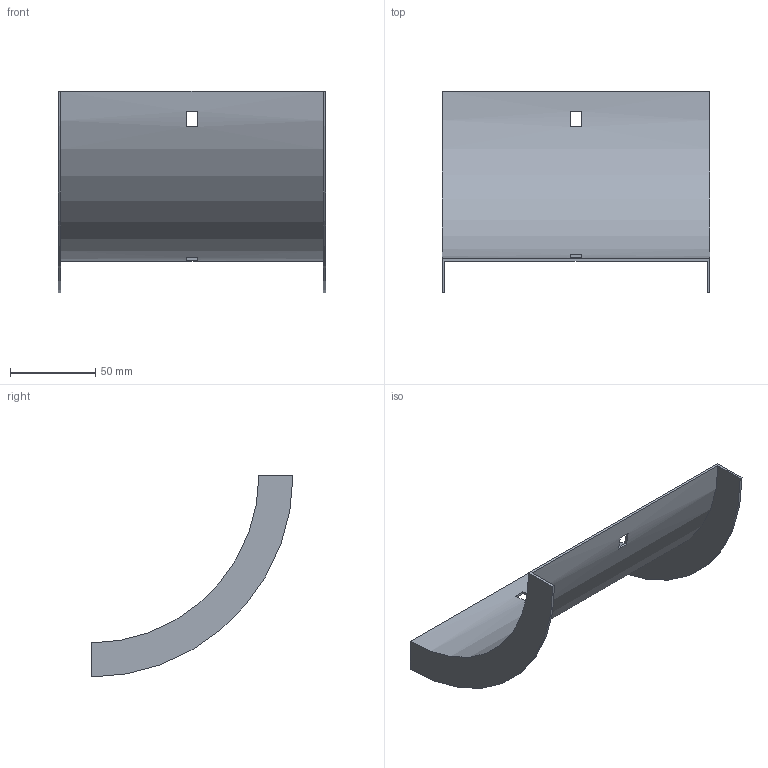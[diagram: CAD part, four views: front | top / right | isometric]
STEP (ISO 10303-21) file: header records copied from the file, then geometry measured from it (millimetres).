
FILE_DESCRIPTION (( 'STEP AP214' ), '1' );
FILE_NAME ('30N1R150.step', '2025-02-21T09:23:43', ( '' ), ( '' ), 'SwSTEP 2.0', 'SolidWorks 2023', '' );
FILE_SCHEMA (( 'AUTOMOTIVE_DESIGN' ));
Length unit declared in the file: millimetre
Products named in the file (1): 30N1R150
Bounding box: 157 x 118.5 x 118.5 mm (x, y, z)
Volume: 46061.1 mm3; surface area: 62646.1 mm2
Topology: 1 solids, 1 shells, 18 faces, 48 edges, 32 vertices
Faces by surface type: plane 14, cylinder 4
Entity records: 599 total; most frequent: DIRECTION 102, CARTESIAN_POINT 99, ORIENTED_EDGE 96, EDGE_CURVE 48, AXIS2_PLACEMENT_3D 35, VECTOR 32, VERTEX_POINT 32, LINE 32
